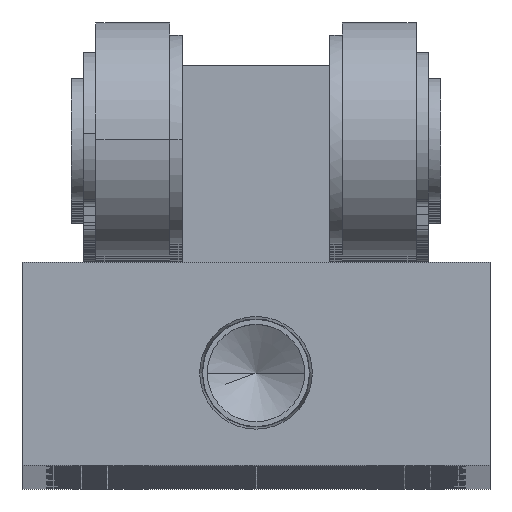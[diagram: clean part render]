
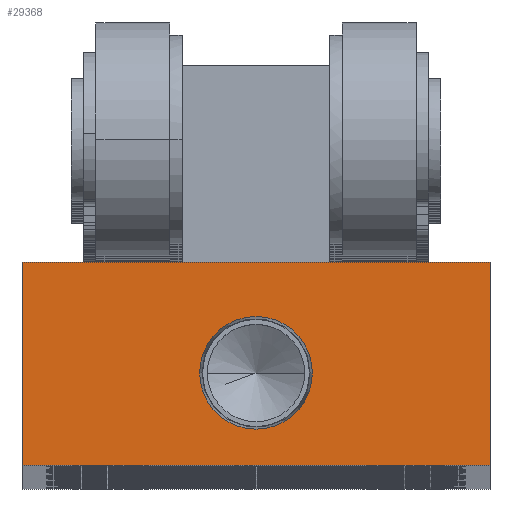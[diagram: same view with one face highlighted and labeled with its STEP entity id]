
A CAD part, top view. The second image highlights one B-rep face of the part: STEP entity #29368.
In plain terms, the highlighted planar face has unit normal (0, 0, 1).
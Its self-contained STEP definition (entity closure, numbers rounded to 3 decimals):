
#284 = VERTEX_POINT ( 'NONE', #2370 ) ;
#297 = VERTEX_POINT ( 'NONE', #30482 ) ;
#352 = CIRCLE ( 'NONE', #38977, 4.574 ) ;
#1276 = CARTESIAN_POINT ( 'NONE',  ( -19., 16.5, 0. ) ) ;
#2370 = CARTESIAN_POINT ( 'NONE',  ( 19., 16.5, 0. ) ) ;
#2669 = VERTEX_POINT ( 'NONE', #40820 ) ;
#3256 = ORIENTED_EDGE ( 'NONE', *, *, #17775, .T. ) ;
#3699 = DIRECTION ( 'NONE',  ( 0., 1., 0. ) ) ;
#4123 = ORIENTED_EDGE ( 'NONE', *, *, #19058, .T. ) ;
#4493 = AXIS2_PLACEMENT_3D ( 'NONE', #15953, #40595, #19510 ) ;
#5392 = DIRECTION ( 'NONE',  ( 0., -1., 0. ) ) ;
#7096 = ORIENTED_EDGE ( 'NONE', *, *, #17105, .T. ) ;
#7701 = DIRECTION ( 'NONE',  ( 0., 0., -1. ) ) ;
#8053 = EDGE_LOOP ( 'NONE', ( #27629, #7096, #3256, #4123 ) ) ;
#8898 = ORIENTED_EDGE ( 'NONE', *, *, #41339, .F. ) ;
#9832 = CARTESIAN_POINT ( 'NONE',  ( -4.574, 7.5, 0. ) ) ;
#9920 = FACE_BOUND ( 'NONE', #16958, .T. ) ;
#10103 = CARTESIAN_POINT ( 'NONE',  ( 0., 7.5, 0. ) ) ;
#11080 = PLANE ( 'NONE',  #39949 ) ;
#12350 = VERTEX_POINT ( 'NONE', #9832 ) ;
#12853 = CARTESIAN_POINT ( 'NONE',  ( 4.574, 7.5, 0. ) ) ;
#13238 = DIRECTION ( 'NONE',  ( 1., 0., 0. ) ) ;
#13623 = DIRECTION ( 'NONE',  ( 1., 0., 0. ) ) ;
#14119 = LINE ( 'NONE', #1276, #38919 ) ;
#15953 = CARTESIAN_POINT ( 'NONE',  ( 0., 7.5, 0. ) ) ;
#16030 = CARTESIAN_POINT ( 'NONE',  ( -19., 16.5, 0. ) ) ;
#16958 = EDGE_LOOP ( 'NONE', ( #29516, #8898 ) ) ;
#17105 = EDGE_CURVE ( 'NONE', #284, #40149, #14119, .T. ) ;
#17775 = EDGE_CURVE ( 'NONE', #40149, #2669, #22914, .T. ) ;
#18156 = FACE_OUTER_BOUND ( 'NONE', #8053, .T. ) ;
#19058 = EDGE_CURVE ( 'NONE', #2669, #297, #37718, .T. ) ;
#19510 = DIRECTION ( 'NONE',  ( 1., 0., 0. ) ) ;
#21208 = CARTESIAN_POINT ( 'NONE',  ( 19., 0., 0. ) ) ;
#21705 = CARTESIAN_POINT ( 'NONE',  ( 0., 0., 0. ) ) ;
#22914 = LINE ( 'NONE', #29990, #40525 ) ;
#25878 = DIRECTION ( 'NONE',  ( -1., 0., 0. ) ) ;
#25928 = CIRCLE ( 'NONE', #4493, 4.574 ) ;
#27629 = ORIENTED_EDGE ( 'NONE', *, *, #29754, .T. ) ;
#28367 = VECTOR ( 'NONE', #13238, 1000. ) ;
#29368 = ADVANCED_FACE ( 'NONE', ( #9920, #18156 ), #11080, .F. ) ;
#29516 = ORIENTED_EDGE ( 'NONE', *, *, #33744, .F. ) ;
#29754 = EDGE_CURVE ( 'NONE', #297, #284, #39069, .T. ) ;
#29990 = CARTESIAN_POINT ( 'NONE',  ( -19., 0., 0. ) ) ;
#30482 = CARTESIAN_POINT ( 'NONE',  ( 19., 0., 0. ) ) ;
#30831 = VERTEX_POINT ( 'NONE', #12853 ) ;
#32312 = DIRECTION ( 'NONE',  ( -1., 0., 0. ) ) ;
#33003 = VECTOR ( 'NONE', #3699, 1000. ) ;
#33744 = EDGE_CURVE ( 'NONE', #30831, #12350, #25928, .T. ) ;
#34726 = DIRECTION ( 'NONE',  ( 0., 0., 1. ) ) ;
#37718 = LINE ( 'NONE', #37870, #28367 ) ;
#37870 = CARTESIAN_POINT ( 'NONE',  ( -19., 0., 0. ) ) ;
#38919 = VECTOR ( 'NONE', #25878, 1000. ) ;
#38977 = AXIS2_PLACEMENT_3D ( 'NONE', #10103, #34726, #13623 ) ;
#39069 = LINE ( 'NONE', #21208, #33003 ) ;
#39949 = AXIS2_PLACEMENT_3D ( 'NONE', #21705, #7701, #32312 ) ;
#40149 = VERTEX_POINT ( 'NONE', #16030 ) ;
#40525 = VECTOR ( 'NONE', #5392, 1000. ) ;
#40595 = DIRECTION ( 'NONE',  ( 0., 0., 1. ) ) ;
#40820 = CARTESIAN_POINT ( 'NONE',  ( -19., 0., 0. ) ) ;
#41339 = EDGE_CURVE ( 'NONE', #12350, #30831, #352, .T. ) ;
